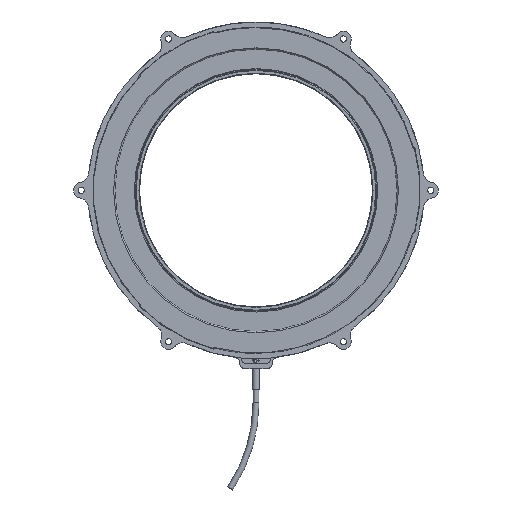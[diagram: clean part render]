
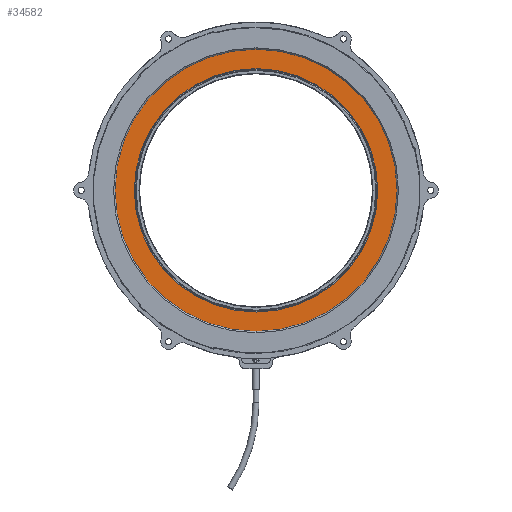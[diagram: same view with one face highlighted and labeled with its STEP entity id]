
A CAD part, front view. The second image highlights one B-rep face of the part: STEP entity #34582.
In plain terms, the highlighted planar face has unit normal (0, -1, 0).
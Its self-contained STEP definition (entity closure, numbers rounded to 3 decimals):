
#176 = DIRECTION ( 'NONE',  ( 0., 0., 1. ) ) ;
#962 = CARTESIAN_POINT ( 'NONE',  ( 0., 0.5, -47. ) ) ;
#5823 = PLANE ( 'NONE',  #26984 ) ;
#11697 = CIRCLE ( 'NONE', #32682, 54.5 ) ;
#13672 = VERTEX_POINT ( 'NONE', #50043 ) ;
#14487 = VERTEX_POINT ( 'NONE', #962 ) ;
#15755 = CIRCLE ( 'NONE', #23367, 47. ) ;
#17438 = VERTEX_POINT ( 'NONE', #58870 ) ;
#17965 = DIRECTION ( 'NONE',  ( 0., 1., 0. ) ) ;
#22240 = CARTESIAN_POINT ( 'NONE',  ( 0., 0.5, 0. ) ) ;
#23367 = AXIS2_PLACEMENT_3D ( 'NONE', #39556, #53253, #39854 ) ;
#24034 = CARTESIAN_POINT ( 'NONE',  ( 47., 0.5, 0. ) ) ;
#25744 = DIRECTION ( 'NONE',  ( 0., 0., 1. ) ) ;
#26017 = DIRECTION ( 'NONE',  ( 0., 1., 0. ) ) ;
#26626 = CARTESIAN_POINT ( 'NONE',  ( 0., 0.5, 0. ) ) ;
#26984 = AXIS2_PLACEMENT_3D ( 'NONE', #24034, #41026, #176 ) ;
#27360 = ORIENTED_EDGE ( 'NONE', *, *, #30654, .T. ) ;
#27612 = DIRECTION ( 'NONE',  ( 0., 0., 1. ) ) ;
#27818 = EDGE_LOOP ( 'NONE', ( #27360, #54637 ) ) ;
#28198 = FACE_BOUND ( 'NONE', #27818, .T. ) ;
#28332 = AXIS2_PLACEMENT_3D ( 'NONE', #44751, #26017, #25744 ) ;
#29146 = AXIS2_PLACEMENT_3D ( 'NONE', #22240, #49354, #27612 ) ;
#30654 = EDGE_CURVE ( 'NONE', #13672, #14487, #43422, .T. ) ;
#31130 = ORIENTED_EDGE ( 'NONE', *, *, #37016, .F. ) ;
#32682 = AXIS2_PLACEMENT_3D ( 'NONE', #26626, #17965, #41199 ) ;
#34582 = ADVANCED_FACE ( 'NONE', ( #50834, #28198 ), #5823, .F. ) ;
#35137 = CARTESIAN_POINT ( 'NONE',  ( 0., 0.5, -54.5 ) ) ;
#37016 = EDGE_CURVE ( 'NONE', #47827, #17438, #11697, .T. ) ;
#39556 = CARTESIAN_POINT ( 'NONE',  ( 0., 0.5, 0. ) ) ;
#39854 = DIRECTION ( 'NONE',  ( 0., 0., 1. ) ) ;
#40355 = EDGE_CURVE ( 'NONE', #14487, #13672, #15755, .T. ) ;
#41026 = DIRECTION ( 'NONE',  ( 0., 1., 0. ) ) ;
#41199 = DIRECTION ( 'NONE',  ( 0., 0., 1. ) ) ;
#43422 = CIRCLE ( 'NONE', #29146, 47. ) ;
#44751 = CARTESIAN_POINT ( 'NONE',  ( 0., 0.5, 0. ) ) ;
#47827 = VERTEX_POINT ( 'NONE', #35137 ) ;
#49354 = DIRECTION ( 'NONE',  ( 0., 1., 0. ) ) ;
#49726 = EDGE_LOOP ( 'NONE', ( #31130, #52252 ) ) ;
#50043 = CARTESIAN_POINT ( 'NONE',  ( 0., 0.5, 47. ) ) ;
#50118 = EDGE_CURVE ( 'NONE', #17438, #47827, #52228, .T. ) ;
#50834 = FACE_OUTER_BOUND ( 'NONE', #49726, .T. ) ;
#52228 = CIRCLE ( 'NONE', #28332, 54.5 ) ;
#52252 = ORIENTED_EDGE ( 'NONE', *, *, #50118, .F. ) ;
#53253 = DIRECTION ( 'NONE',  ( 0., 1., 0. ) ) ;
#54637 = ORIENTED_EDGE ( 'NONE', *, *, #40355, .T. ) ;
#58870 = CARTESIAN_POINT ( 'NONE',  ( 0., 0.5, 54.5 ) ) ;
